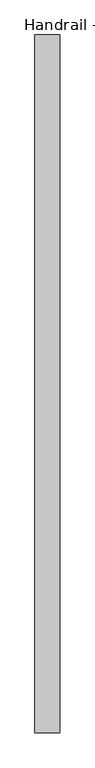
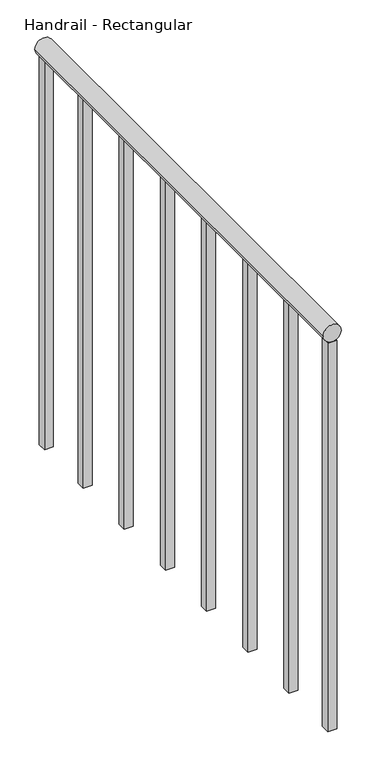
"""IFC4 building model written with IfcOpenShell, lengths in millimetres: railing geometry, Handrail - Rectangular."""

from ifc_helpers import new_model, si_unit, point, frame, frame_2d, origin, place, context, project, spatial, polyline, circle_curve, trimmed, segment, composite_curve, outline, extrude, source, transform, mapped, element, save


def handrail_rectangular_1a7f8f58(model_context):
    return source(origin(), model_context, "Body", "SweptSolid", [
        extrude(outline(composite_curve([segment(trimmed(circle_curve(frame_2d((10039.35, 2297.1410437)), 19.05), [point((10039.35, 2316.1910437))], [point((10039.35, 2278.0910437))], False, "CARTESIAN"), True, "CONTINUOUS"), segment(trimmed(circle_curve(frame_2d((10039.35, 2297.1410437)), 19.05), [point((10039.35, 2278.0910437))], [point((10039.35, 2316.1910437))], False, "CARTESIAN"), True, "CONTINUOUS")], self_intersect=False)), frame((0.0, -35349.9683133, 0.0), z_axis=(0.0, 1.0, 0.0), x_axis=(0.0, 0.0, 1.0)), (0.0, 0.0, 1.0), 1066.8),
        extrude(outline(polyline([(2287.6160437, -34445.0933133), (2287.6160437, -34426.0433133), (2306.6660437, -34426.0433133), (2306.6660437, -34445.0933133), (2287.6160437, -34445.0933133)])), frame((0.0, 0.0, 9144.0), z_axis=(0.0, 0.0, 1.0), x_axis=(1.0, 0.0, 0.0)), (0.0, 0.0, 1.0), 876.3),
        extrude(outline(polyline([(2287.6160437, -34597.4933133), (2287.6160437, -34578.4433133), (2306.6660437, -34578.4433133), (2306.6660437, -34597.4933133), (2287.6160437, -34597.4933133)])), frame((0.0, 0.0, 9144.0), z_axis=(0.0, 0.0, 1.0), x_axis=(1.0, 0.0, 0.0)), (0.0, 0.0, 1.0), 876.3),
        extrude(outline(polyline([(2287.6160437, -34749.8933133), (2287.6160437, -34730.8433133), (2306.6660437, -34730.8433133), (2306.6660437, -34749.8933133), (2287.6160437, -34749.8933133)])), frame((0.0, 0.0, 9144.0), z_axis=(0.0, 0.0, 1.0), x_axis=(1.0, 0.0, 0.0)), (0.0, 0.0, 1.0), 876.3),
        extrude(outline(polyline([(2287.6160437, -34902.2933133), (2287.6160437, -34883.2433133), (2306.6660437, -34883.2433133), (2306.6660437, -34902.2933133), (2287.6160437, -34902.2933133)])), frame((0.0, 0.0, 9144.0), z_axis=(0.0, 0.0, 1.0), x_axis=(1.0, 0.0, 0.0)), (0.0, 0.0, 1.0), 876.3),
        extrude(outline(polyline([(2287.6160437, -35054.6933133), (2287.6160437, -35035.6433133), (2306.6660437, -35035.6433133), (2306.6660437, -35054.6933133), (2287.6160437, -35054.6933133)])), frame((0.0, 0.0, 9144.0), z_axis=(0.0, 0.0, 1.0), x_axis=(1.0, 0.0, 0.0)), (0.0, 0.0, 1.0), 876.3),
        extrude(outline(polyline([(2287.6160437, -35207.0933133), (2287.6160437, -35188.0433133), (2306.6660437, -35188.0433133), (2306.6660437, -35207.0933133), (2287.6160437, -35207.0933133)])), frame((0.0, 0.0, 9144.0), z_axis=(0.0, 0.0, 1.0), x_axis=(1.0, 0.0, 0.0)), (0.0, 0.0, 1.0), 876.3),
        extrude(outline(polyline([(2287.6160437, -34302.2183133), (2287.6160437, -34283.1683133), (2306.6660437, -34283.1683133), (2306.6660437, -34302.2183133), (2287.6160437, -34302.2183133)])), frame((0.0, 0.0, 9144.0), z_axis=(0.0, 0.0, 1.0), x_axis=(1.0, 0.0, 0.0)), (0.0, 0.0, 1.0), 876.3),
        extrude(outline(polyline([(2287.6160437, -35349.9683133), (2287.6160437, -35330.9183133), (2306.6660437, -35330.9183133), (2306.6660437, -35349.9683133), (2287.6160437, -35349.9683133)])), frame((0.0, 0.0, 9144.0), z_axis=(0.0, 0.0, 1.0), x_axis=(1.0, 0.0, 0.0)), (0.0, 0.0, 1.0), 876.3),
    ])


if __name__ == "__main__":
    model = new_model("IFC4")
    model_context = context("Model", 3, world=origin())
    ifc_project = project(units=[si_unit("LENGTHUNIT", "METRE", prefix="MILLI")], contexts=[model_context])
    site = spatial("IfcSite", under=ifc_project)
    building = spatial("IfcBuilding", under=site)
    placement = place(None, origin())
    handrail_rectangular_shape = handrail_rectangular_1a7f8f58(model_context)
    element("IfcRailing", 1, ObjectType="Handrail - Rectangular", at=placement, inside=building, context=model_context, shape_type="MappedRepresentation", body=[
        mapped(handrail_rectangular_shape, transform((0.0, 0.0, 0.0), x_axis=(1.0, 0.0, 0.0), y_axis=(0.0, 1.0, 0.0), z_axis=(0.0, 0.0, 1.0))),
    ])
    save(model, "model.ifc")
